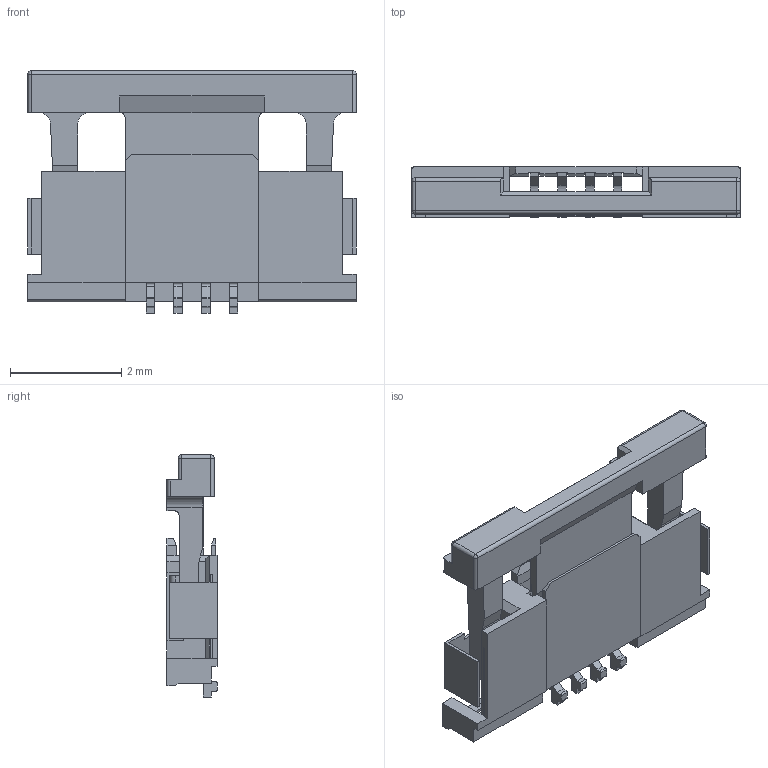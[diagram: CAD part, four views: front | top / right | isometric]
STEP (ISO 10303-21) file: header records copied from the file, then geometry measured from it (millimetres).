
FILE_DESCRIPTION((''),'2;1');
FILE_NAME('513790471','2007-10-16T',('av'),(''),'PRO/ENGINEER BY PARAMETRIC TECHNOLOGY CORPORATION, 2003451','PRO/ENGINEER BY PARAMETRIC TECHNOLOGY CORPORATION, 2003451','');
FILE_SCHEMA(('CONFIG_CONTROL_DESIGN'));
Length unit declared in the file: millimetre
Products named in the file (1): 513790471
Bounding box: 5.9 x 0.9 x 4.35 mm (x, y, z)
Volume: 9.1 mm3; surface area: 103 mm2
Topology: 1 solids, 1 shells, 329 faces, 989 edges, 650 vertices
Faces by surface type: plane 278, cylinder 45, sphere 4, torus 2
Entity records: 10972 total; most frequent: CARTESIAN_POINT 1983, ORIENTED_EDGE 1930, DIRECTION 1737, EDGE_CURVE 965, VECTOR 889, LINE 889, VERTEX_POINT 626, AXIS2_PLACEMENT_3D 424
